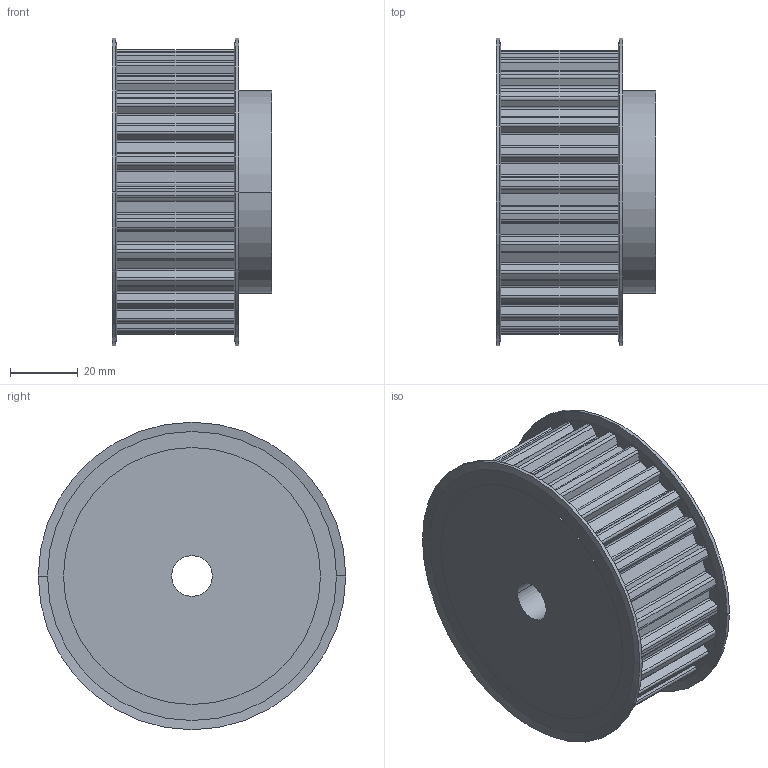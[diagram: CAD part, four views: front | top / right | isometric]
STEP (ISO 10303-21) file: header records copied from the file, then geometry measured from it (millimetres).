
FILE_DESCRIPTION( ( '' ), '1' );
FILE_NAME( 'C:/Users/Stangenbergd/Documents/CAD_Step/1/16442700.stp', '2021-10-19T08:57:32', ( '' ), ( '' ), ' ', ' ', ' ' );
FILE_SCHEMA( ( 'CONFIG_CONTROL_DESIGN' ) );
Length unit declared in the file: millimetre
Products named in the file (1): 1
Bounding box: 47.24 x 91 x 91 mm (x, y, z)
Volume: 212902.7 mm3; surface area: 32914.1 mm2
Topology: 1 solids, 1 shells, 244 faces, 703 edges, 466 vertices
Faces by surface type: cylinder 148, plane 88, cone 8
Entity records: 8175 total; most frequent: DIRECTION 1497, CARTESIAN_POINT 1414, ORIENTED_EDGE 1406, EDGE_CURVE 703, AXIS2_PLACEMENT_3D 549, VERTEX_POINT 466, LINE 399, VECTOR 399
